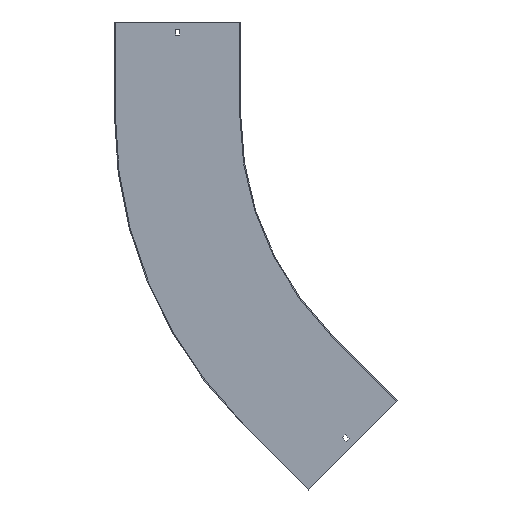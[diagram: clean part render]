
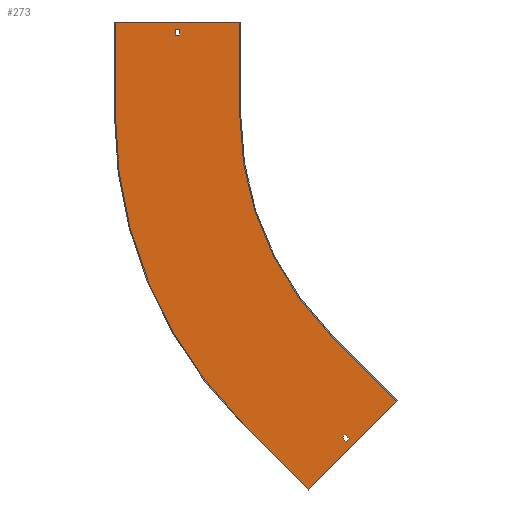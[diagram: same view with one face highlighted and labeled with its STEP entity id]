
A CAD part, front view. The second image highlights one B-rep face of the part: STEP entity #273.
In plain terms, the highlighted planar face has unit normal (0, -1, 0).
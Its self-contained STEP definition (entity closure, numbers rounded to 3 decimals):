
#3 = AXIS2_PLACEMENT_3D ( 'NONE', #313, #841, #382 ) ;
#5 = CARTESIAN_POINT ( 'NONE',  ( -500., -1.5, 0. ) ) ;
#7 = DIRECTION ( 'NONE',  ( 0.707, 0., 0.707 ) ) ;
#28 = VECTOR ( 'NONE', #747, 1000. ) ;
#34 = CARTESIAN_POINT ( 'NONE',  ( -701.5, -1.5, 150. ) ) ;
#36 = VERTEX_POINT ( 'NONE', #510 ) ;
#47 = DIRECTION ( 'NONE',  ( -0.707, 0., 0.707 ) ) ;
#50 = VERTEX_POINT ( 'NONE', #191 ) ;
#55 = VERTEX_POINT ( 'NONE', #456 ) ;
#56 = DIRECTION ( 'NONE',  ( 0.707, 0., -0.707 ) ) ;
#77 = VECTOR ( 'NONE', #285, 1000. ) ;
#78 = EDGE_LOOP ( 'NONE', ( #717, #801, #357, #396 ) ) ;
#90 = VECTOR ( 'NONE', #193, 1000. ) ;
#99 = LINE ( 'NONE', #281, #28 ) ;
#111 = EDGE_CURVE ( 'NONE', #334, #654, #591, .T. ) ;
#113 = CARTESIAN_POINT ( 'NONE',  ( -596.75, -1.5, 129. ) ) ;
#117 = VECTOR ( 'NONE', #56, 1000. ) ;
#119 = CARTESIAN_POINT ( 'NONE',  ( 0., -1.5, 0. ) ) ;
#121 = PLANE ( 'NONE',  #706 ) ;
#132 = CARTESIAN_POINT ( 'NONE',  ( 97.581, -1.5, -97.581 ) ) ;
#144 = ORIENTED_EDGE ( 'NONE', *, *, #685, .F. ) ;
#150 = CARTESIAN_POINT ( 'NONE',  ( -353.553, -1.5, -353.553 ) ) ;
#160 = EDGE_CURVE ( 'NONE', #378, #563, #361, .T. ) ;
#165 = VERTEX_POINT ( 'NONE', #495 ) ;
#173 = DIRECTION ( 'NONE',  ( -0.707, 0., 0.707 ) ) ;
#185 = VERTEX_POINT ( 'NONE', #748 ) ;
#189 = CARTESIAN_POINT ( 'NONE',  ( -388.909, -1.5, -601.041 ) ) ;
#191 = CARTESIAN_POINT ( 'NONE',  ( -324.385, -1.5, -519.547 ) ) ;
#193 = DIRECTION ( 'NONE',  ( 0., 0., 1. ) ) ;
#199 = ORIENTED_EDGE ( 'NONE', *, *, #776, .F. ) ;
#206 = CARTESIAN_POINT ( 'NONE',  ( -330.749, -1.5, -513.183 ) ) ;
#207 = LINE ( 'NONE', #793, #90 ) ;
#215 = ORIENTED_EDGE ( 'NONE', *, *, #299, .F. ) ;
#236 = VERTEX_POINT ( 'NONE', #113 ) ;
#238 = CARTESIAN_POINT ( 'NONE',  ( -603.25, -1.5, 138. ) ) ;
#240 = DIRECTION ( 'NONE',  ( 0., 1., 0. ) ) ;
#248 = ORIENTED_EDGE ( 'NONE', *, *, #263, .F. ) ;
#259 = ORIENTED_EDGE ( 'NONE', *, *, #111, .F. ) ;
#263 = EDGE_CURVE ( 'NONE', #36, #378, #750, .T. ) ;
#271 = CARTESIAN_POINT ( 'NONE',  ( 91.217, -1.5, -91.217 ) ) ;
#273 = ADVANCED_FACE ( 'NONE', ( #445, #584, #306 ), #121, .T. ) ;
#276 = EDGE_CURVE ( 'NONE', #654, #55, #372, .T. ) ;
#281 = CARTESIAN_POINT ( 'NONE',  ( -246.427, -1.5, -458.559 ) ) ;
#285 = DIRECTION ( 'NONE',  ( 0., 0., 1. ) ) ;
#286 = EDGE_CURVE ( 'NONE', #185, #165, #716, .T. ) ;
#289 = LINE ( 'NONE', #427, #545 ) ;
#292 = VECTOR ( 'NONE', #7, 1000. ) ;
#293 = LINE ( 'NONE', #34, #627 ) ;
#299 = EDGE_CURVE ( 'NONE', #574, #36, #639, .T. ) ;
#306 = FACE_BOUND ( 'NONE', #78, .T. ) ;
#308 = CARTESIAN_POINT ( 'NONE',  ( 0., -1.5, 0. ) ) ;
#313 = CARTESIAN_POINT ( 'NONE',  ( 0., -1.5, 0. ) ) ;
#333 = DIRECTION ( 'NONE',  ( 1., 0., 0. ) ) ;
#334 = VERTEX_POINT ( 'NONE', #335 ) ;
#335 = CARTESIAN_POINT ( 'NONE',  ( -500., -1.5, 150. ) ) ;
#338 = EDGE_CURVE ( 'NONE', #165, #50, #408, .T. ) ;
#339 = CARTESIAN_POINT ( 'NONE',  ( -700., -1.5, 0. ) ) ;
#343 = DIRECTION ( 'NONE',  ( -1., 0., 0. ) ) ;
#347 = DIRECTION ( 'NONE',  ( 0.707, 0., -0.707 ) ) ;
#348 = EDGE_CURVE ( 'NONE', #729, #185, #597, .T. ) ;
#349 = VERTEX_POINT ( 'NONE', #658 ) ;
#357 = ORIENTED_EDGE ( 'NONE', *, *, #497, .T. ) ;
#361 = LINE ( 'NONE', #755, #77 ) ;
#372 = CIRCLE ( 'NONE', #3, 500. ) ;
#377 = DIRECTION ( 'NONE',  ( 0., 0., -1. ) ) ;
#378 = VERTEX_POINT ( 'NONE', #339 ) ;
#382 = DIRECTION ( 'NONE',  ( 0., 0., -1. ) ) ;
#385 = ORIENTED_EDGE ( 'NONE', *, *, #276, .F. ) ;
#391 = VERTEX_POINT ( 'NONE', #787 ) ;
#395 = DIRECTION ( 'NONE',  ( -0.707, 0., -0.707 ) ) ;
#396 = ORIENTED_EDGE ( 'NONE', *, *, #405, .T. ) ;
#405 = EDGE_CURVE ( 'NONE', #778, #679, #207, .T. ) ;
#408 = LINE ( 'NONE', #132, #292 ) ;
#413 = DIRECTION ( 'NONE',  ( 0., 0., -1. ) ) ;
#427 = CARTESIAN_POINT ( 'NONE',  ( 0., -1.5, 129. ) ) ;
#430 = EDGE_LOOP ( 'NONE', ( #199, #614, #248, #215, #624, #534, #385, #259 ) ) ;
#445 = FACE_BOUND ( 'NONE', #525, .T. ) ;
#456 = CARTESIAN_POINT ( 'NONE',  ( -353.553, -1.5, -353.553 ) ) ;
#472 = CARTESIAN_POINT ( 'NONE',  ( -596.75, -1.5, 0. ) ) ;
#493 = CARTESIAN_POINT ( 'NONE',  ( -388.909, -1.5, -601.041 ) ) ;
#495 = CARTESIAN_POINT ( 'NONE',  ( -328.981, -1.5, -524.143 ) ) ;
#497 = EDGE_CURVE ( 'NONE', #236, #778, #289, .T. ) ;
#504 = VECTOR ( 'NONE', #333, 1000. ) ;
#505 = LINE ( 'NONE', #768, #764 ) ;
#507 = DIRECTION ( 'NONE',  ( 0., -1., 0. ) ) ;
#510 = CARTESIAN_POINT ( 'NONE',  ( -494.975, -1.5, -494.975 ) ) ;
#517 = VECTOR ( 'NONE', #347, 1000. ) ;
#525 = EDGE_LOOP ( 'NONE', ( #144, #860, #720, #780 ) ) ;
#534 = ORIENTED_EDGE ( 'NONE', *, *, #559, .F. ) ;
#538 = EDGE_CURVE ( 'NONE', #349, #574, #99, .T. ) ;
#545 = VECTOR ( 'NONE', #343, 1000. ) ;
#546 = LINE ( 'NONE', #814, #504 ) ;
#548 = CARTESIAN_POINT ( 'NONE',  ( -700., -1.5, 150. ) ) ;
#559 = EDGE_CURVE ( 'NONE', #55, #349, #611, .T. ) ;
#563 = VERTEX_POINT ( 'NONE', #548 ) ;
#573 = CARTESIAN_POINT ( 'NONE',  ( -603.25, -1.5, 129. ) ) ;
#574 = VERTEX_POINT ( 'NONE', #493 ) ;
#580 = CARTESIAN_POINT ( 'NONE',  ( -426.562, -1.5, -426.562 ) ) ;
#584 = FACE_OUTER_BOUND ( 'NONE', #430, .T. ) ;
#591 = LINE ( 'NONE', #790, #607 ) ;
#597 = LINE ( 'NONE', #271, #779 ) ;
#599 = VECTOR ( 'NONE', #47, 1000. ) ;
#607 = VECTOR ( 'NONE', #655, 1000. ) ;
#611 = LINE ( 'NONE', #150, #517 ) ;
#614 = ORIENTED_EDGE ( 'NONE', *, *, #160, .F. ) ;
#624 = ORIENTED_EDGE ( 'NONE', *, *, #538, .F. ) ;
#627 = VECTOR ( 'NONE', #837, 1000. ) ;
#637 = AXIS2_PLACEMENT_3D ( 'NONE', #308, #240, #784 ) ;
#639 = LINE ( 'NONE', #189, #599 ) ;
#654 = VERTEX_POINT ( 'NONE', #5 ) ;
#655 = DIRECTION ( 'NONE',  ( 0., 0., -1. ) ) ;
#658 = CARTESIAN_POINT ( 'NONE',  ( -247.487, -1.5, -459.619 ) ) ;
#679 = VERTEX_POINT ( 'NONE', #238 ) ;
#685 = EDGE_CURVE ( 'NONE', #50, #729, #505, .T. ) ;
#693 = VECTOR ( 'NONE', #413, 1000. ) ;
#706 = AXIS2_PLACEMENT_3D ( 'NONE', #119, #507, #377 ) ;
#716 = LINE ( 'NONE', #580, #117 ) ;
#717 = ORIENTED_EDGE ( 'NONE', *, *, #751, .T. ) ;
#720 = ORIENTED_EDGE ( 'NONE', *, *, #286, .F. ) ;
#729 = VERTEX_POINT ( 'NONE', #206 ) ;
#741 = EDGE_CURVE ( 'NONE', #391, #236, #802, .T. ) ;
#747 = DIRECTION ( 'NONE',  ( -0.707, 0., -0.707 ) ) ;
#748 = CARTESIAN_POINT ( 'NONE',  ( -335.345, -1.5, -517.779 ) ) ;
#750 = CIRCLE ( 'NONE', #637, 700. ) ;
#751 = EDGE_CURVE ( 'NONE', #679, #391, #546, .T. ) ;
#755 = CARTESIAN_POINT ( 'NONE',  ( -700., -1.5, 0. ) ) ;
#764 = VECTOR ( 'NONE', #173, 1000. ) ;
#768 = CARTESIAN_POINT ( 'NONE',  ( -421.966, -1.5, -421.966 ) ) ;
#776 = EDGE_CURVE ( 'NONE', #563, #334, #293, .T. ) ;
#778 = VERTEX_POINT ( 'NONE', #573 ) ;
#779 = VECTOR ( 'NONE', #395, 1000. ) ;
#780 = ORIENTED_EDGE ( 'NONE', *, *, #348, .F. ) ;
#784 = DIRECTION ( 'NONE',  ( 0., 0., -1. ) ) ;
#787 = CARTESIAN_POINT ( 'NONE',  ( -596.75, -1.5, 138. ) ) ;
#790 = CARTESIAN_POINT ( 'NONE',  ( -500., -1.5, 150. ) ) ;
#793 = CARTESIAN_POINT ( 'NONE',  ( -603.25, -1.5, 0. ) ) ;
#801 = ORIENTED_EDGE ( 'NONE', *, *, #741, .T. ) ;
#802 = LINE ( 'NONE', #472, #693 ) ;
#814 = CARTESIAN_POINT ( 'NONE',  ( 0., -1.5, 138. ) ) ;
#837 = DIRECTION ( 'NONE',  ( 1., 0., 0. ) ) ;
#841 = DIRECTION ( 'NONE',  ( 0., -1., 0. ) ) ;
#860 = ORIENTED_EDGE ( 'NONE', *, *, #338, .F. ) ;
